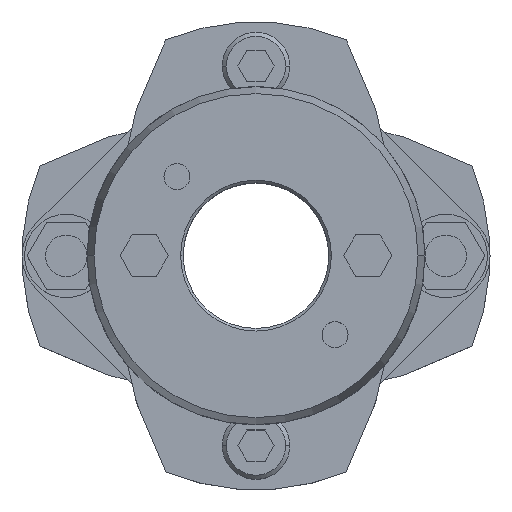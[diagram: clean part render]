
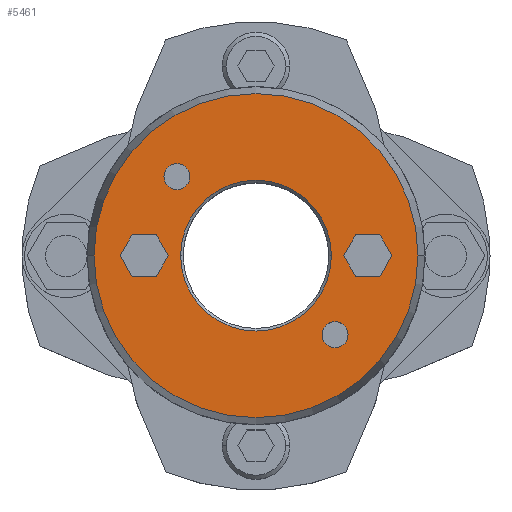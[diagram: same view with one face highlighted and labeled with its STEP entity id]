
A CAD part, top view. The second image highlights one B-rep face of the part: STEP entity #5461.
In plain terms, the highlighted planar face has unit normal (0, 0, 1).
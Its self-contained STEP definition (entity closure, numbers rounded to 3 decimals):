
#857=CARTESIAN_POINT('',(-14.5,0.,39.25));
#858=VERTEX_POINT('',#857);
#874=CARTESIAN_POINT('',(14.5,0.,39.25));
#875=VERTEX_POINT('',#874);
#882=CARTESIAN_POINT('',(0.,0.,39.25));
#883=DIRECTION('',(0.0,0.0,1.0));
#884=DIRECTION('',(-1.0,0.0,0.0));
#885=AXIS2_PLACEMENT_3D('',#882,#883,#884);
#886=CIRCLE('',#885,14.5);
#887=EDGE_CURVE('',#875,#858,#886,.T.);
#1003=CARTESIAN_POINT('',(31.16,0.,39.25));
#1004=VERTEX_POINT('',#1003);
#1013=CARTESIAN_POINT('',(-31.16,0.,39.25));
#1014=VERTEX_POINT('',#1013);
#1015=CARTESIAN_POINT('',(0.,0.,39.25));
#1016=DIRECTION('',(0.0,0.0,-1.0));
#1017=DIRECTION('',(1.0,0.0,0.0));
#1018=AXIS2_PLACEMENT_3D('',#1015,#1016,#1017);
#1019=CIRCLE('',#1018,31.16);
#1020=EDGE_CURVE('',#1004,#1014,#1019,.T.);
#1337=CARTESIAN_POINT('',(-17.703,15.203,39.25));
#1338=VERTEX_POINT('',#1337);
#1354=CARTESIAN_POINT('',(-12.703,15.203,39.25));
#1355=VERTEX_POINT('',#1354);
#1362=CARTESIAN_POINT('',(-15.203,15.203,39.25));
#1363=DIRECTION('',(0.0,0.0,-1.0));
#1364=DIRECTION('',(-1.0,0.0,0.0));
#1365=AXIS2_PLACEMENT_3D('',#1362,#1363,#1364);
#1366=CIRCLE('',#1365,2.5);
#1367=EDGE_CURVE('',#1338,#1355,#1366,.T.);
#1379=CARTESIAN_POINT('',(12.703,-15.203,39.25));
#1380=VERTEX_POINT('',#1379);
#1396=CARTESIAN_POINT('',(17.703,-15.203,39.25));
#1397=VERTEX_POINT('',#1396);
#1404=CARTESIAN_POINT('',(15.203,-15.203,39.25));
#1405=DIRECTION('',(0.0,0.0,-1.0));
#1406=DIRECTION('',(-1.0,0.0,0.0));
#1407=AXIS2_PLACEMENT_3D('',#1404,#1405,#1406);
#1408=CIRCLE('',#1407,2.5);
#1409=EDGE_CURVE('',#1380,#1397,#1408,.T.);
#4067=CARTESIAN_POINT('',(16.881,0.,39.25));
#4068=VERTEX_POINT('',#4067);
#4075=CARTESIAN_POINT('',(19.191,-4.,39.25));
#4076=VERTEX_POINT('',#4075);
#4077=CARTESIAN_POINT('',(19.191,-4.,39.25));
#4078=DIRECTION('',(-0.5,0.866,0.0));
#4079=VECTOR('',#4078,4.619);
#4080=LINE('',#4077,#4079);
#4081=EDGE_CURVE('',#4076,#4068,#4080,.T.);
#4105=CARTESIAN_POINT('',(19.191,4.,39.25));
#4106=VERTEX_POINT('',#4105);
#4113=CARTESIAN_POINT('',(16.881,0.,39.25));
#4114=DIRECTION('',(0.5,0.866,0.0));
#4115=VECTOR('',#4114,4.619);
#4116=LINE('',#4113,#4115);
#4117=EDGE_CURVE('',#4068,#4106,#4116,.T.);
#4136=CARTESIAN_POINT('',(23.809,4.,39.25));
#4137=VERTEX_POINT('',#4136);
#4144=CARTESIAN_POINT('',(19.191,4.,39.25));
#4145=DIRECTION('',(1.0,0.0,0.0));
#4146=VECTOR('',#4145,4.619);
#4147=LINE('',#4144,#4146);
#4148=EDGE_CURVE('',#4106,#4137,#4147,.T.);
#4167=CARTESIAN_POINT('',(26.119,0.,39.25));
#4168=VERTEX_POINT('',#4167);
#4175=CARTESIAN_POINT('',(23.809,4.,39.25));
#4176=DIRECTION('',(0.5,-0.866,0.0));
#4177=VECTOR('',#4176,4.619);
#4178=LINE('',#4175,#4177);
#4179=EDGE_CURVE('',#4137,#4168,#4178,.T.);
#4198=CARTESIAN_POINT('',(23.809,-4.,39.25));
#4199=VERTEX_POINT('',#4198);
#4206=CARTESIAN_POINT('',(26.119,0.,39.25));
#4207=DIRECTION('',(-0.5,-0.866,0.0));
#4208=VECTOR('',#4207,4.619);
#4209=LINE('',#4206,#4208);
#4210=EDGE_CURVE('',#4168,#4199,#4209,.T.);
#4228=CARTESIAN_POINT('',(23.809,-4.,39.25));
#4229=DIRECTION('',(-1.0,0.0,0.0));
#4230=VECTOR('',#4229,4.619);
#4231=LINE('',#4228,#4230);
#4232=EDGE_CURVE('',#4199,#4076,#4231,.T.);
#4267=CARTESIAN_POINT('',(-26.119,0.,39.25));
#4268=VERTEX_POINT('',#4267);
#4275=CARTESIAN_POINT('',(-23.809,-4.,39.25));
#4276=VERTEX_POINT('',#4275);
#4277=CARTESIAN_POINT('',(-23.809,-4.,39.25));
#4278=DIRECTION('',(-0.5,0.866,0.0));
#4279=VECTOR('',#4278,4.619);
#4280=LINE('',#4277,#4279);
#4281=EDGE_CURVE('',#4276,#4268,#4280,.T.);
#4305=CARTESIAN_POINT('',(-23.809,4.,39.25));
#4306=VERTEX_POINT('',#4305);
#4313=CARTESIAN_POINT('',(-26.119,0.,39.25));
#4314=DIRECTION('',(0.5,0.866,0.0));
#4315=VECTOR('',#4314,4.619);
#4316=LINE('',#4313,#4315);
#4317=EDGE_CURVE('',#4268,#4306,#4316,.T.);
#4336=CARTESIAN_POINT('',(-19.191,4.,39.25));
#4337=VERTEX_POINT('',#4336);
#4344=CARTESIAN_POINT('',(-23.809,4.,39.25));
#4345=DIRECTION('',(1.0,0.0,0.0));
#4346=VECTOR('',#4345,4.619);
#4347=LINE('',#4344,#4346);
#4348=EDGE_CURVE('',#4306,#4337,#4347,.T.);
#4367=CARTESIAN_POINT('',(-16.881,0.,39.25));
#4368=VERTEX_POINT('',#4367);
#4375=CARTESIAN_POINT('',(-19.191,4.,39.25));
#4376=DIRECTION('',(0.5,-0.866,0.0));
#4377=VECTOR('',#4376,4.619);
#4378=LINE('',#4375,#4377);
#4379=EDGE_CURVE('',#4337,#4368,#4378,.T.);
#4398=CARTESIAN_POINT('',(-19.191,-4.,39.25));
#4399=VERTEX_POINT('',#4398);
#4406=CARTESIAN_POINT('',(-16.881,0.,39.25));
#4407=DIRECTION('',(-0.5,-0.866,0.0));
#4408=VECTOR('',#4407,4.619);
#4409=LINE('',#4406,#4408);
#4410=EDGE_CURVE('',#4368,#4399,#4409,.T.);
#4428=CARTESIAN_POINT('',(-19.191,-4.,39.25));
#4429=DIRECTION('',(-1.0,0.0,0.0));
#4430=VECTOR('',#4429,4.619);
#4431=LINE('',#4428,#4430);
#4432=EDGE_CURVE('',#4399,#4276,#4431,.T.);
#4458=CARTESIAN_POINT('',(15.203,-15.203,39.25));
#4459=DIRECTION('',(0.0,0.0,-1.0));
#4460=DIRECTION('',(-1.0,0.0,0.0));
#4461=AXIS2_PLACEMENT_3D('',#4458,#4459,#4460);
#4462=CIRCLE('',#4461,2.5);
#4463=EDGE_CURVE('',#1397,#1380,#4462,.T.);
#4492=CARTESIAN_POINT('',(-15.203,15.203,39.25));
#4493=DIRECTION('',(0.0,0.0,-1.0));
#4494=DIRECTION('',(-1.0,0.0,0.0));
#4495=AXIS2_PLACEMENT_3D('',#4492,#4493,#4494);
#4496=CIRCLE('',#4495,2.5);
#4497=EDGE_CURVE('',#1355,#1338,#4496,.T.);
#5408=CARTESIAN_POINT('',(0.,0.,39.25));
#5409=DIRECTION('',(0.0,0.0,-1.0));
#5410=DIRECTION('',(1.0,0.0,0.0));
#5411=AXIS2_PLACEMENT_3D('',#5408,#5409,#5410);
#5412=CIRCLE('',#5411,31.16);
#5413=EDGE_CURVE('',#1014,#1004,#5412,.T.);
#5418=CARTESIAN_POINT('',(-2.682,0.,39.25));
#5419=DIRECTION('',(0.0,0.0,1.0));
#5420=DIRECTION('',(-1.0,0.0,0.0));
#5421=AXIS2_PLACEMENT_3D('',#5418,#5419,#5420);
#5422=PLANE('',#5421);
#5423=ORIENTED_EDGE('',*,*,#5413,.F.);
#5424=ORIENTED_EDGE('',*,*,#1020,.F.);
#5425=EDGE_LOOP('',(#5423,#5424));
#5426=FACE_OUTER_BOUND('',#5425,.T.);
#5427=ORIENTED_EDGE('',*,*,#4081,.T.);
#5428=ORIENTED_EDGE('',*,*,#4117,.T.);
#5429=ORIENTED_EDGE('',*,*,#4148,.T.);
#5430=ORIENTED_EDGE('',*,*,#4179,.T.);
#5431=ORIENTED_EDGE('',*,*,#4210,.T.);
#5432=ORIENTED_EDGE('',*,*,#4232,.T.);
#5433=EDGE_LOOP('',(#5427,#5428,#5429,#5430,#5431,#5432));
#5434=FACE_BOUND('',#5433,.T.);
#5435=ORIENTED_EDGE('',*,*,#4281,.T.);
#5436=ORIENTED_EDGE('',*,*,#4317,.T.);
#5437=ORIENTED_EDGE('',*,*,#4348,.T.);
#5438=ORIENTED_EDGE('',*,*,#4379,.T.);
#5439=ORIENTED_EDGE('',*,*,#4410,.T.);
#5440=ORIENTED_EDGE('',*,*,#4432,.T.);
#5441=EDGE_LOOP('',(#5435,#5436,#5437,#5438,#5439,#5440));
#5442=FACE_BOUND('',#5441,.T.);
#5443=ORIENTED_EDGE('',*,*,#1409,.T.);
#5444=ORIENTED_EDGE('',*,*,#4463,.T.);
#5445=EDGE_LOOP('',(#5443,#5444));
#5446=FACE_BOUND('',#5445,.T.);
#5447=ORIENTED_EDGE('',*,*,#1367,.T.);
#5448=ORIENTED_EDGE('',*,*,#4497,.T.);
#5449=EDGE_LOOP('',(#5447,#5448));
#5450=FACE_BOUND('',#5449,.T.);
#5451=ORIENTED_EDGE('',*,*,#887,.F.);
#5452=CARTESIAN_POINT('',(0.,0.,39.25));
#5453=DIRECTION('',(0.0,0.0,1.0));
#5454=DIRECTION('',(-1.0,0.0,0.0));
#5455=AXIS2_PLACEMENT_3D('',#5452,#5453,#5454);
#5456=CIRCLE('',#5455,14.5);
#5457=EDGE_CURVE('',#858,#875,#5456,.T.);
#5458=ORIENTED_EDGE('',*,*,#5457,.F.);
#5459=EDGE_LOOP('',(#5451,#5458));
#5460=FACE_BOUND('',#5459,.T.);
#5461=ADVANCED_FACE('',(#5426,#5434,#5442,#5446,#5450,#5460),#5422,.T.);
